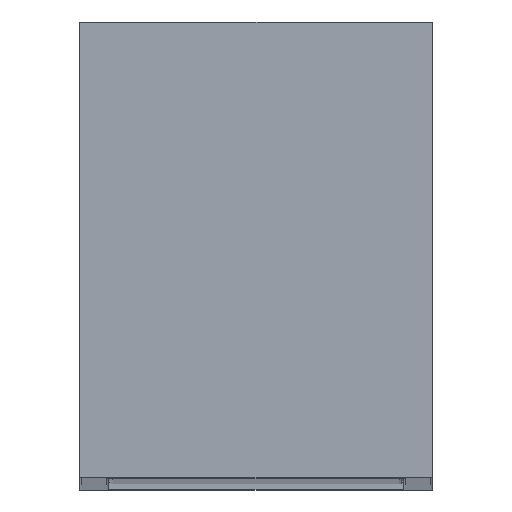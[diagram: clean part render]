
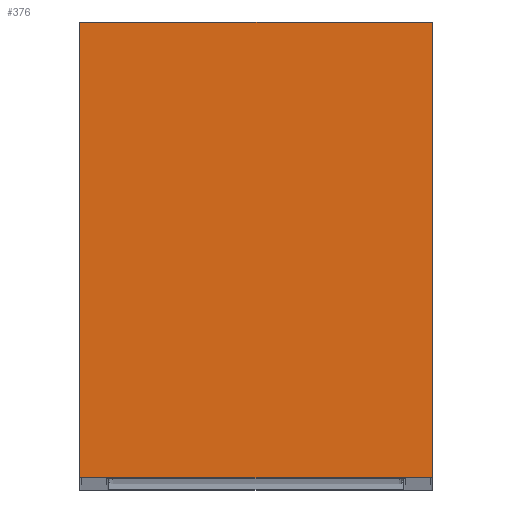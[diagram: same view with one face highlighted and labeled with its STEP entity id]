
A CAD part, top view. The second image highlights one B-rep face of the part: STEP entity #376.
In plain terms, the highlighted planar face has unit normal (0, 0, 1).
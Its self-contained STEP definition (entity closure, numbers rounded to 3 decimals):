
#43 = CARTESIAN_POINT ( 'NONE',  ( -29., 0., 567. ) ) ;
#186 = DIRECTION ( 'NONE',  ( 0., 1., 0. ) ) ;
#227 = LINE ( 'NONE', #1325, #1367 ) ;
#376 = ADVANCED_FACE ( 'NONE', ( #635 ), #2580, .F. ) ;
#470 = ORIENTED_EDGE ( 'NONE', *, *, #493, .T. ) ;
#493 = EDGE_CURVE ( 'NONE', #2242, #1294, #729, .T. ) ;
#570 = CARTESIAN_POINT ( 'NONE',  ( -29., 0., 567. ) ) ;
#621 = DIRECTION ( 'NONE',  ( -1., 0., 0. ) ) ;
#622 = ORIENTED_EDGE ( 'NONE', *, *, #934, .T. ) ;
#635 = FACE_OUTER_BOUND ( 'NONE', #2501, .T. ) ;
#729 = LINE ( 'NONE', #2041, #2427 ) ;
#742 = ORIENTED_EDGE ( 'NONE', *, *, #1875, .T. ) ;
#903 = CARTESIAN_POINT ( 'NONE',  ( -29., 75., 567. ) ) ;
#934 = EDGE_CURVE ( 'NONE', #1680, #2242, #1699, .T. ) ;
#1156 = EDGE_CURVE ( 'NONE', #1745, #1680, #2586, .T. ) ;
#1181 = DIRECTION ( 'NONE',  ( 0., 0., -1. ) ) ;
#1223 = CARTESIAN_POINT ( 'NONE',  ( 29., 75., 567. ) ) ;
#1271 = ORIENTED_EDGE ( 'NONE', *, *, #1156, .T. ) ;
#1294 = VERTEX_POINT ( 'NONE', #1223 ) ;
#1305 = CARTESIAN_POINT ( 'NONE',  ( 29., 0., 567. ) ) ;
#1325 = CARTESIAN_POINT ( 'NONE',  ( -29., 75., 567. ) ) ;
#1358 = DIRECTION ( 'NONE',  ( -1., 0., 0. ) ) ;
#1367 = VECTOR ( 'NONE', #1358, 1000. ) ;
#1371 = CARTESIAN_POINT ( 'NONE',  ( 0., 0., 567. ) ) ;
#1564 = DIRECTION ( 'NONE',  ( 0., -1., 0. ) ) ;
#1602 = VECTOR ( 'NONE', #1711, 1000. ) ;
#1680 = VERTEX_POINT ( 'NONE', #43 ) ;
#1699 = LINE ( 'NONE', #2116, #1602 ) ;
#1711 = DIRECTION ( 'NONE',  ( 1., 0., 0. ) ) ;
#1745 = VERTEX_POINT ( 'NONE', #903 ) ;
#1875 = EDGE_CURVE ( 'NONE', #1294, #1745, #227, .T. ) ;
#2041 = CARTESIAN_POINT ( 'NONE',  ( 29., 0., 567. ) ) ;
#2086 = VECTOR ( 'NONE', #1564, 1000. ) ;
#2116 = CARTESIAN_POINT ( 'NONE',  ( -29., 0., 567. ) ) ;
#2123 = AXIS2_PLACEMENT_3D ( 'NONE', #1371, #1181, #621 ) ;
#2242 = VERTEX_POINT ( 'NONE', #1305 ) ;
#2427 = VECTOR ( 'NONE', #186, 1000. ) ;
#2501 = EDGE_LOOP ( 'NONE', ( #1271, #622, #470, #742 ) ) ;
#2580 = PLANE ( 'NONE',  #2123 ) ;
#2586 = LINE ( 'NONE', #570, #2086 ) ;
